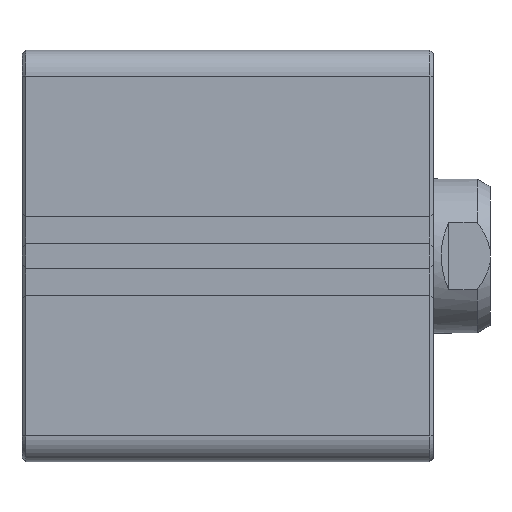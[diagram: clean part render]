
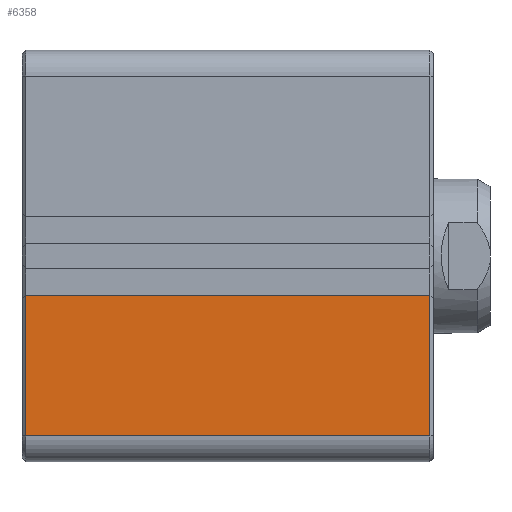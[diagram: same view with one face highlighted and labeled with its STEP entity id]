
A CAD part, left-side view. The second image highlights one B-rep face of the part: STEP entity #6358.
In plain terms, the highlighted planar face has unit normal (-1, 0, 0).
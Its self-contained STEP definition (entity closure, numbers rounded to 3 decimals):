
#249=PLANE('',#6690);
#553=LINE('',#9406,#955);
#554=LINE('',#9412,#956);
#555=LINE('',#9415,#957);
#556=LINE('',#9416,#958);
#955=VECTOR('',#7384,1000.);
#956=VECTOR('',#7391,1000.);
#957=VECTOR('',#7392,1000.);
#958=VECTOR('',#7393,1000.);
#1737=ORIENTED_EDGE('',*,*,#2750,.F.);
#1738=ORIENTED_EDGE('',*,*,#2751,.T.);
#1739=ORIENTED_EDGE('',*,*,#2747,.T.);
#1740=ORIENTED_EDGE('',*,*,#2752,.T.);
#2747=EDGE_CURVE('',#3269,#3270,#553,.T.);
#2750=EDGE_CURVE('',#3271,#3272,#554,.T.);
#2751=EDGE_CURVE('',#3271,#3269,#555,.T.);
#2752=EDGE_CURVE('',#3270,#3272,#556,.T.);
#3269=VERTEX_POINT('',#9407);
#3270=VERTEX_POINT('',#9408);
#3271=VERTEX_POINT('',#9413);
#3272=VERTEX_POINT('',#9414);
#3664=EDGE_LOOP('',(#1737,#1738,#1739,#1740));
#4013=FACE_BOUND('',#3664,.T.);
#6358=ADVANCED_FACE('',(#4013),#249,.T.);
#6690=AXIS2_PLACEMENT_3D('',#9411,#7389,#7390);
#7384=DIRECTION('',(0.,-1.,0.));
#7389=DIRECTION('',(-1.,0.,0.));
#7390=DIRECTION('',(0.,0.,1.));
#7391=DIRECTION('',(0.,-1.,0.));
#7392=DIRECTION('',(0.,0.,-1.));
#7393=DIRECTION('',(0.,0.,1.));
#9406=CARTESIAN_POINT('',(-40.,70.,-35.));
#9407=CARTESIAN_POINT('',(-40.,79.3,-35.));
#9408=CARTESIAN_POINT('',(-40.,0.7,-35.));
#9411=CARTESIAN_POINT('',(-40.,70.,-7.65));
#9412=CARTESIAN_POINT('',(-40.,70.,-7.65));
#9413=CARTESIAN_POINT('',(-40.,79.3,-7.65));
#9414=CARTESIAN_POINT('',(-40.,0.7,-7.65));
#9415=CARTESIAN_POINT('',(-40.,79.3,-7.65));
#9416=CARTESIAN_POINT('',(-40.,0.7,-7.65));
